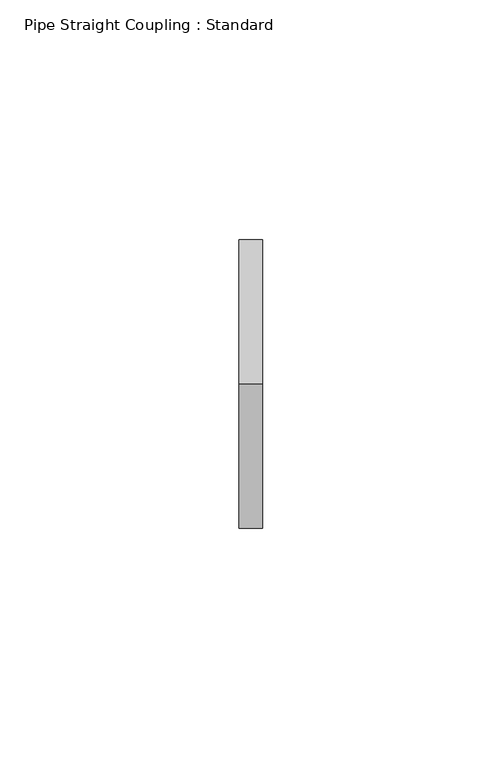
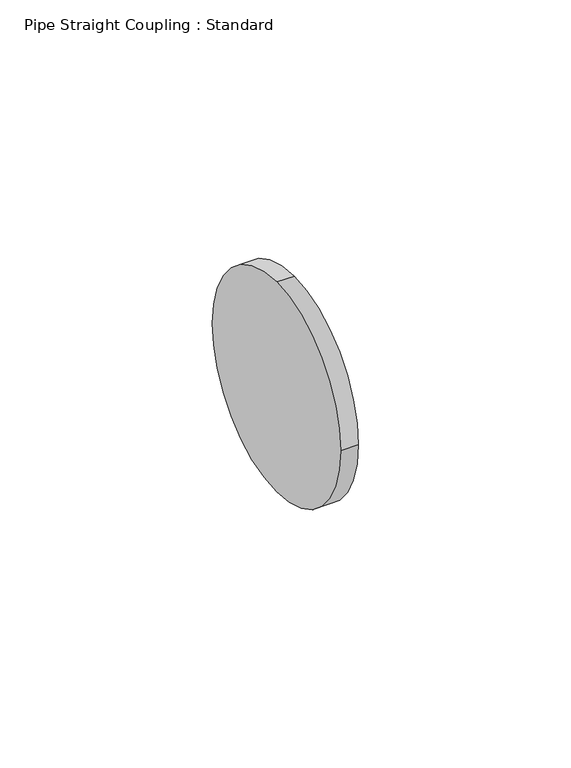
"""IFC4 building model written with IfcOpenShell, lengths in millimetres: pipe fitting geometry, Pipe Straight Coupling : Standard."""

from ifc_helpers import new_model, si_unit, point, frame, origin, origin_2d, place, context, project, spatial, circle_curve, trimmed, segment, composite_curve, outline, extrude, source, transform, mapped, element, save


def pipe_straight_coupling_standard_a036b704(model_context):
    return source(origin(), model_context, "Body", "SweptSolid", [
        extrude(outline(composite_curve([segment(trimmed(circle_curve(origin_2d(), 30.1625), [point((0.0, 30.1625))], [point((30.1625, 0.0))], False, "CARTESIAN"), True, "CONTINUOUS"), segment(trimmed(circle_curve(origin_2d(), 30.1625), [point((30.1625, 0.0))], [point((0.0, -30.1625))], False, "CARTESIAN"), True, "CONTINUOUS"), segment(trimmed(circle_curve(origin_2d(), 30.1625), [point((0.0, -30.1625))], [point((-30.1625, 0.0))], False, "CARTESIAN"), True, "CONTINUOUS"), segment(trimmed(circle_curve(origin_2d(), 30.1625), [point((-30.1625, 0.0))], [point((0.0, 30.1625))], False, "CARTESIAN"), True, "CONTINUOUS")], self_intersect=False)), frame((-2.413, 0.0, 0.0), z_axis=(1.0, 0.0, 0.0), x_axis=(0.0, 1.0, 0.0)), (0.0, 0.0, 1.0), 4.826),
        extrude(outline(composite_curve([segment(trimmed(circle_curve(origin_2d(), 30.1625), [point((0.0, 30.1625))], [point((30.1625, 0.0))], False, "CARTESIAN"), True, "CONTINUOUS"), segment(trimmed(circle_curve(origin_2d(), 30.1625), [point((30.1625, 0.0))], [point((0.0, -30.1625))], False, "CARTESIAN"), True, "CONTINUOUS"), segment(trimmed(circle_curve(origin_2d(), 30.1625), [point((0.0, -30.1625))], [point((-30.1625, 0.0))], False, "CARTESIAN"), True, "CONTINUOUS"), segment(trimmed(circle_curve(origin_2d(), 30.1625), [point((-30.1625, 0.0))], [point((0.0, 30.1625))], False, "CARTESIAN"), True, "CONTINUOUS")], self_intersect=False)), frame((-2.413, 0.0, 0.0), z_axis=(1.0, 0.0, 0.0), x_axis=(0.0, 1.0, 0.0)), (0.0, 0.0, 1.0), 4.826),
    ])


if __name__ == "__main__":
    model = new_model("IFC4")
    model_context = context("Model", 3, world=origin())
    ifc_project = project(units=[si_unit("LENGTHUNIT", "METRE", prefix="MILLI")], contexts=[model_context])
    site = spatial("IfcSite", under=ifc_project)
    building = spatial("IfcBuilding", under=site)
    placement = place(None, origin())
    pipe_straight_coupling_standard_shape = pipe_straight_coupling_standard_a036b704(model_context)
    element("IfcPipeFitting", 1, ObjectType="Pipe Straight Coupling : Standard", at=placement, inside=building, context=model_context, shape_type="MappedRepresentation", body=[
        mapped(pipe_straight_coupling_standard_shape, transform((0.0, 0.0, 0.0), x_axis=(1.0, 0.0, 0.0), y_axis=(0.0, 1.0, 0.0), z_axis=(0.0, 0.0, 1.0))),
    ])
    save(model, "model.ifc")
